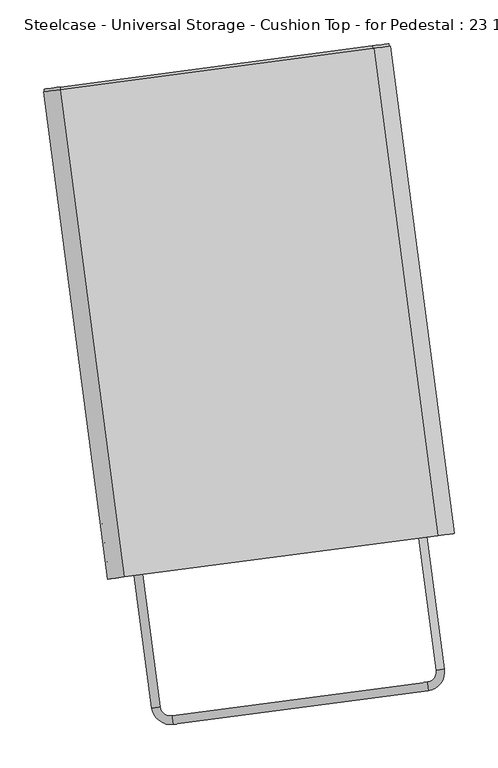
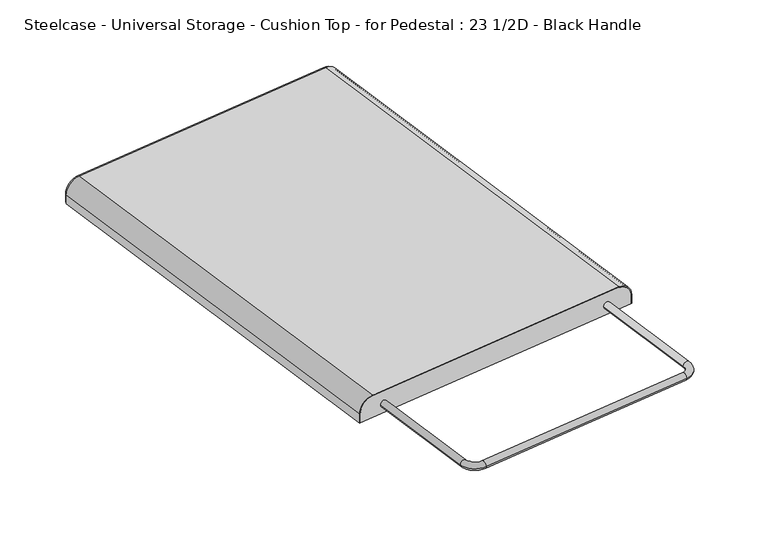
"""IFC4 building model written with IfcOpenShell, lengths in millimetres: furniture geometry, Steelcase - Universal Storage - Cushion Top - for Pedestal : 23 1/2D - Black Handle."""

from ifc_helpers import new_model, si_unit, point, frame, frame_2d, origin, place, context, project, spatial, polyline, circle_curve, ellipse_curve, trimmed, segment, composite_curve, outline, extrude, source, transform, mapped, element, save
from ifc_brep_helpers import plane_surface, cylinder_surface, revolved_surface, advanced_brep


def steelcase_universal_storage_cushion_top_for_pedestal_23_1_2d_7a2ed08b(model_context):
    return source(origin(), model_context, "Body", "SolidModel", [
        advanced_brep(
        [(106.8063111, -575.9439213, 546.1), (116.2466761, -574.7010736, 546.1), (126.7383236, -727.3425866, 546.1), (136.1786886, -726.0997389, 546.1), (149.8004443, -736.5520325, 546.1), (151.043333, -745.9923921, 546.1), (443.512013, -707.4868634, 546.1), (442.2691243, -698.0465039, 546.1), (452.4959644, -684.537008, 546.1), (461.9193121, -683.1711093, 546.1), (441.9936046, -531.8142736, 546.1), (432.5532398, -533.0571224, 546.1)],
        [
            (0, 1, circle_curve(frame((111.5264936, -575.3224974, 546.1), z_axis=(-0.13052619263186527, 0.9914448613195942, 0.0), x_axis=(0.9914448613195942, 0.13052619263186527, 0.0)), 4.7609128)),
            (1, 0, circle_curve(frame((111.5264936, -575.3224974, 546.1), z_axis=(-0.13052619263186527, 0.9914448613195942, 0.0), x_axis=(0.9914448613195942, 0.13052619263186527, 0.0)), 4.7609128)),
            (0, 2),
            (2, 3, circle_curve(frame((131.4585061, -726.7211627, 546.1), z_axis=(-0.13052619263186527, 0.9914448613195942, 0.0), x_axis=(0.9914448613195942, 0.13052619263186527, 0.0)), 4.7609128)),
            (3, 1),
            (3, 2, circle_curve(frame((131.4585061, -726.7211627, 546.1), z_axis=(-0.13052619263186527, 0.9914448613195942, 0.0), x_axis=(0.9914448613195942, 0.13052619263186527, 0.0)), 4.7609128)),
            (4, 3, circle_curve(frame((148.2156905, -724.5150376, 546.1), z_axis=(0.0, 0.0, -1.0), x_axis=(-0.9914448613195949, -0.1305261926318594, 0.0)), 12.1408687)),
            (2, 5, circle_curve(frame((148.2156905, -724.5150376, 546.1), z_axis=(0.0, 0.0, 1.0), x_axis=(-0.9914448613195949, -0.1305261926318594, 0.0)), 21.6626942)),
            (5, 4, circle_curve(frame((150.4218887, -741.2722123, 546.1), z_axis=(-0.9914442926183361, -0.1305305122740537, 0.0), x_axis=(-0.1305305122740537, 0.9914442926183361, 0.0)), 4.7609128)),
            (4, 5, circle_curve(frame((150.4218887, -741.2722123, 546.1), z_axis=(-0.9914442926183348, -0.13053051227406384, 0.0), x_axis=(-0.13053051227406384, 0.9914442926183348, 0.0)), 4.7609128)),
            (5, 6),
            (6, 7, circle_curve(frame((442.8905687, -702.7666836, 546.1), z_axis=(-0.9914442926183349, -0.13053051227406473, 0.0), x_axis=(-0.13053051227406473, 0.9914442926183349, 0.0)), 4.7609128)),
            (7, 4),
            (7, 6, circle_curve(frame((442.8905687, -702.7666836, 546.1), z_axis=(-0.9914442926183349, -0.13053051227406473, 0.0), x_axis=(-0.13053051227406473, 0.9914442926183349, 0.0)), 4.7609128)),
            (8, 7, circle_curve(frame((440.7153209, -686.2445929, 546.1), z_axis=(0.0, 0.0, -1.0), x_axis=(0.13053051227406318, -0.991444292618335, 0.0)), 11.903756)),
            (6, 9, circle_curve(frame((440.7153209, -686.2445929, 546.1), z_axis=(0.0, 0.0, 1.0), x_axis=(0.13053051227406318, -0.991444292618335, 0.0)), 21.4255815)),
            (9, 8, circle_curve(frame((457.2076383, -683.8540587, 546.1), z_axis=(0.14344924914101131, -0.9896576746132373, 0.0), x_axis=(-0.9896576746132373, -0.14344924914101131, 0.0)), 4.7609128)),
            (8, 9, circle_curve(frame((457.2076383, -683.8540587, 546.1), z_axis=(0.14344924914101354, -0.9896576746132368, 0.0), x_axis=(-0.9896576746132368, -0.14344924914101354, 0.0)), 4.7609128)),
            (10, 11, circle_curve(frame((437.2734222, -532.435698, 546.1), z_axis=(-0.13052631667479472, 0.9914448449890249, 0.0), x_axis=(-0.9914448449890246, -0.1305263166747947, 0.0)), 4.7609128)),
            (11, 10, circle_curve(frame((437.2734222, -532.435698, 546.1), z_axis=(-0.13052631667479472, 0.9914448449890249, 0.0), x_axis=(-0.9914448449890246, -0.1305263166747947, 0.0)), 4.7609128)),
            (9, 10),
            (11, 8),
        ],
        [
            plane_surface(frame((116.2466761, -574.7010736, 533.4), z_axis=(-0.13052619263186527, 0.9914448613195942, 0.0), x_axis=(0.0, 0.0, 1.0))),
            cylinder_surface(frame((111.5264936, -575.3224974, 546.1), z_axis=(-0.13052619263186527, 0.9914448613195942, 0.0), x_axis=(0.9914448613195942, 0.13052619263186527, 0.0)), 4.7609128),
            revolved_surface(trimmed(ellipse_curve(frame((131.4585061, -726.7211627, 546.1), z_axis=(-0.13052619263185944, 0.9914448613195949, 0.0), x_axis=(0.9914448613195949, 0.13052619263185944, 0.0)), 4.7609128, 4.7609128), [point((126.7383236, -727.3425866, 546.1))], [point((136.1786886, -726.0997389, 546.1))], True, "CARTESIAN"), (148.2156905, -724.5150376, 533.4), (0.0, 0.0, 1.0)),
            revolved_surface(trimmed(ellipse_curve(frame((131.4585061, -726.7211627, 546.1), z_axis=(-0.13052619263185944, 0.9914448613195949, 0.0), x_axis=(0.9914448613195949, 0.13052619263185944, 0.0)), 4.7609128, 4.7609128), [point((136.1786886, -726.0997389, 546.1))], [point((126.7383236, -727.3425866, 546.1))], True, "CARTESIAN"), (148.2156905, -724.5150376, 533.4), (0.0, 0.0, 1.0)),
            cylinder_surface(frame((150.4218887, -741.2722123, 546.1), z_axis=(-0.9914442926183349, -0.13053051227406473, 0.0), x_axis=(-0.13053051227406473, 0.9914442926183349, 0.0)), 4.7609128),
            revolved_surface(trimmed(ellipse_curve(frame((442.8905687, -702.7666836, 546.1), z_axis=(-0.991444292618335, -0.1305305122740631, 0.0), x_axis=(-0.1305305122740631, 0.991444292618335, 0.0)), 4.7609128, 4.7609128), [point((443.512013, -707.4868634, 546.1))], [point((442.2691243, -698.0465039, 546.1))], True, "CARTESIAN"), (440.7153209, -686.2445929, 533.4), (0.0, 0.0, 1.0)),
            revolved_surface(trimmed(ellipse_curve(frame((442.8905687, -702.7666836, 546.1), z_axis=(-0.991444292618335, -0.1305305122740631, 0.0), x_axis=(-0.1305305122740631, 0.991444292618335, 0.0)), 4.7609128, 4.7609128), [point((442.2691243, -698.0465039, 546.1))], [point((443.512013, -707.4868634, 546.1))], True, "CARTESIAN"), (440.7153209, -686.2445929, 533.4), (0.0, 0.0, 1.0)),
            plane_surface(frame((432.5532398, -533.0571224, 533.4), z_axis=(-0.13052631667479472, 0.9914448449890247, 0.0), x_axis=(0.0, 0.0, 1.0))),
            cylinder_surface(frame((457.2161468, -683.9155836, 546.1), z_axis=(0.1305263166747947, -0.9914448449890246, 0.0), x_axis=(-0.9914448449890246, -0.1305263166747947, 0.0)), 4.7609128),
        ],
        [
            (0, [[1, 2]]),
            (1, [[-1, 3, 4, 5]]),
            (1, [[-2, -5, 6, -3]]),
            (2, [[7, -4, 8, 9]]),
            (3, [[-8, -6, -7, 10]]),
            (4, [[-9, 11, 12, 13]]),
            (4, [[-10, -13, 14, -11]]),
            (5, [[15, -12, 16, 17]]),
            (6, [[-16, -14, -15, 18]]),
            (7, [[19, 20]]),
            (8, [[-17, 21, -20, 22]]),
            (8, [[-18, -22, -19, -21]]),
        ],
    ),
        extrude(outline(composite_curve([segment(polyline([(12.4883434, 0.0), (12.4883434, -398.1718688), (0.9825059, -398.1718688)]), True, "CONTINUOUS"), segment(trimmed(circle_curve(frame_2d((0.9825059, -379.1218688)), 19.05), [point((0.9825059, -398.1718688))], [point((-18.0674941, -379.1218688))], False, "CARTESIAN"), True, "CONTINUOUS"), segment(polyline([(-18.0674941, -379.1218688), (-18.0674941, -18.067494)]), True, "CONTINUOUS"), segment(trimmed(circle_curve(frame_2d((0.0, -18.067494)), 18.0674941), [point((-18.0674941, -18.067494))], [point((0.0, 0.0))], False, "CARTESIAN"), True, "CONTINUOUS"), segment(polyline([(0.0, 0.0), (12.4883434, 0.0)]), True, "CONTINUOUS")], self_intersect=False)), frame((77.5029954, -579.8019477, 545.8883434), z_axis=(-0.13053051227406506, 0.9914442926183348, 0.0), x_axis=(0.0, 0.0, -1.0)), (0.0, 0.0, 1.0), 565.2730172),
        extrude(outline(composite_curve([segment(polyline([(12.5218375, 0.0), (12.5218375, -1.016), (0.0334941, -1.016)]), True, "CONTINUOUS"), segment(trimmed(circle_curve(frame_2d((0.0334941, -19.083494)), 18.0674941), [point((0.0334941, -1.016))], [point((-18.034, -19.083494))], True, "CARTESIAN"), True, "CONTINUOUS"), segment(polyline([(-18.034, -19.083494), (-18.034, -380.2817351)]), True, "CONTINUOUS"), segment(trimmed(circle_curve(frame_2d((1.016, -380.2817351)), 19.05), [point((-18.034, -380.2817351))], [point((1.016, -399.3317352))], True, "CARTESIAN"), True, "CONTINUOUS"), segment(polyline([(1.016, -399.3317352), (12.5218375, -399.3317352), (12.5218375, -400.3477352), (0.0538401, -400.3477352)]), True, "CONTINUOUS"), segment(trimmed(circle_curve(frame_2d((-0.0076377, -381.3054545)), 19.0423799), [point((0.0538401, -400.3477352))], [point((-19.05, -381.2795517))], False, "CARTESIAN"), True, "CONTINUOUS"), segment(polyline([(-19.05, -381.2795517), (-19.05, -19.0499999)]), True, "CONTINUOUS"), segment(trimmed(circle_curve(frame_2d((0.0, -19.0499999)), 19.05), [point((-19.05, -19.0499999))], [point((0.0, 0.0))], False, "CARTESIAN"), True, "CONTINUOUS"), segment(polyline([(0.0, 0.0), (12.5218375, 0.0)]), True, "CONTINUOUS")], self_intersect=False)), frame((76.3530525, -579.9533457, 545.9218375), z_axis=(-0.13053051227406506, 0.9914442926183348, 0.0), x_axis=(0.0, 0.0, -1.0)), (0.0, 0.0, 1.0), 562.2235172),
    ])


if __name__ == "__main__":
    model = new_model("IFC4")
    model_context = context("Model", 3, world=origin())
    ifc_project = project(units=[si_unit("LENGTHUNIT", "METRE", prefix="MILLI")], contexts=[model_context])
    site = spatial("IfcSite", under=ifc_project)
    building = spatial("IfcBuilding", under=site)
    placement = place(None, origin())
    steelcase_universal_storage_cushion_top_for_pedestal_23_1_2d_shape = steelcase_universal_storage_cushion_top_for_pedestal_23_1_2d_7a2ed08b(model_context)
    element("IfcFurniture", 1, ObjectType="Steelcase - Universal Storage - Cushion Top - for Pedestal : 23 1/2D - Black Handle", at=placement, inside=building, context=model_context, shape_type="MappedRepresentation", body=[
        mapped(steelcase_universal_storage_cushion_top_for_pedestal_23_1_2d_shape, transform((0.0, 0.0, 0.0), x_axis=(1.0, 0.0, 0.0), y_axis=(0.0, 1.0, 0.0), z_axis=(0.0, 0.0, 1.0))),
    ])
    save(model, "model.ifc")
